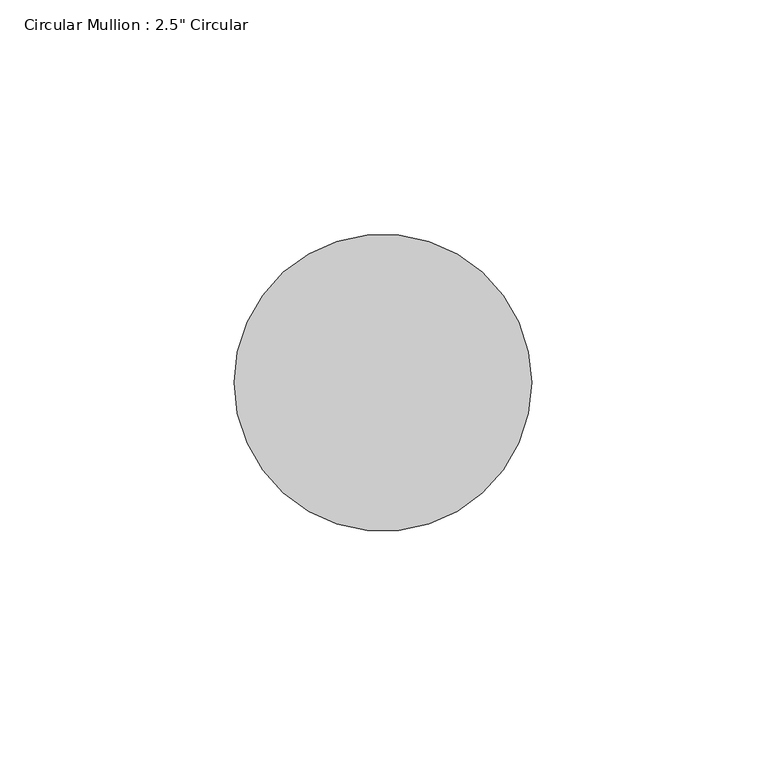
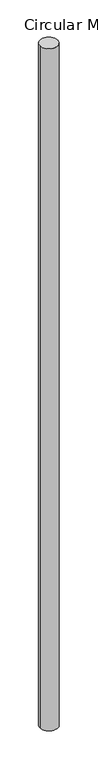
"""IFC4 building model written with IfcOpenShell, lengths in millimetres: member geometry."""

from ifc_helpers import new_model, si_unit, point, frame, frame_2d, origin, place, context, project, spatial, circle_curve, trimmed, segment, composite_curve, outline, extrude, source, transform, mapped, element, save


def member_ae2f6071(model_context):
    return source(origin(), model_context, "Body", "SweptSolid", [
        extrude(outline(composite_curve([segment(trimmed(circle_curve(frame_2d((-31.75, 0.0)), 31.75), [point((0.0, 0.0))], [point((-63.5, 0.0))], False, "CARTESIAN"), True, "CONTINUOUS"), segment(trimmed(circle_curve(frame_2d((-31.75, 0.0)), 31.75), [point((-63.5, 0.0))], [point((0.0, 0.0))], False, "CARTESIAN"), True, "CONTINUOUS")], self_intersect=False)), frame((0.0, 0.0, -2552.586816), z_axis=(0.0, 0.0, 1.0), x_axis=(1.0, 0.0, 0.0)), (0.0, 0.0, 1.0), 2552.586816),
    ])


if __name__ == "__main__":
    model = new_model("IFC4")
    model_context = context("Model", 3, world=origin())
    ifc_project = project(units=[si_unit("LENGTHUNIT", "METRE", prefix="MILLI")], contexts=[model_context])
    site = spatial("IfcSite", under=ifc_project)
    building = spatial("IfcBuilding", under=site)
    placement = place(None, origin())
    member_shape = member_ae2f6071(model_context)
    element("IfcMember", 1, ObjectType="Circular Mullion : 2.5\" Circular", at=placement, inside=building, context=model_context, shape_type="MappedRepresentation", body=[
        mapped(member_shape, transform((0.0, 0.0, 0.0), x_axis=(1.0, 0.0, 0.0), y_axis=(0.0, 1.0, 0.0), z_axis=(0.0, 0.0, 1.0))),
    ])
    save(model, "model.ifc")
